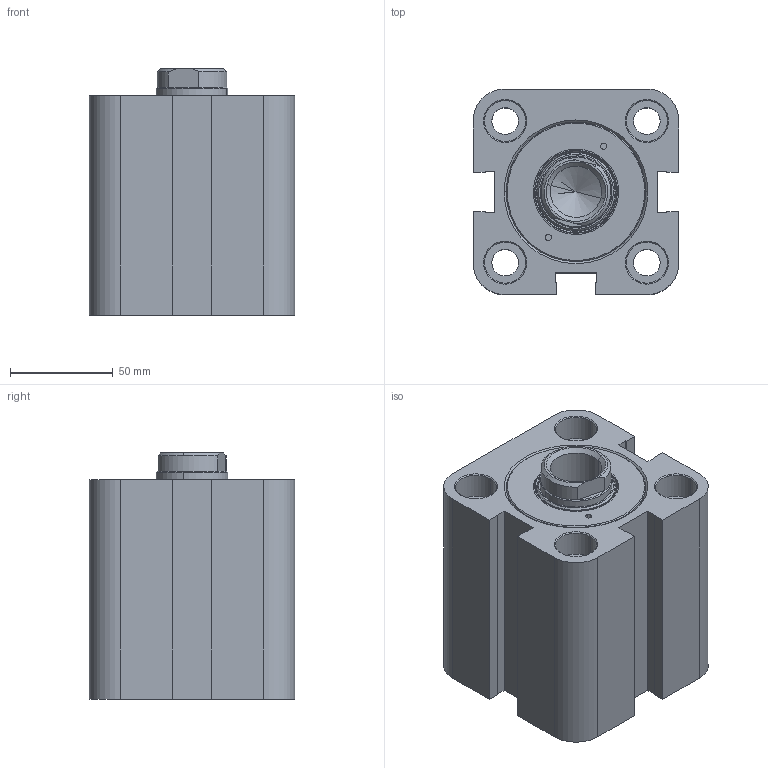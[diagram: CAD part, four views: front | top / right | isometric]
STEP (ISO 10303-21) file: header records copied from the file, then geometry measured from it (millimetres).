
FILE_DESCRIPTION (( 'STEP AP214' ), '1' );
FILE_NAME ('KSWC_03_M_63_35_30_WEB.STEP', '2021-08-20T10:58:09', ( '' ), ( '' ), 'SwSTEP 2.0', 'SolidWorks 2021', '' );
FILE_SCHEMA (( 'AUTOMOTIVE_DESIGN' ));
Length unit declared in the file: millimetre
Products named in the file (8): KSWC_03_63_35_烰_KAPAK; KO-58X3; 35_K_MIL_WEB; KSWC_03_M_63_35_30_WEB; KSWC_03_63_35_ON_KAPAK; K22-35X45X8; K05-35X41X4; KSWC_03_M_63_GOVDE_WEB
Assembly tree (7 placements, depth 3):
  KSWC_03_M_63_35_30_WEB
    KSWC_03_M_63_GOVDE_WEB
    35_K_MIL_WEB
    KSWC_03_63_35_ON_KAPAK
      KSWC_03_63_35_烰_KAPAK
      K05-35X41X4
      K22-35X45X8
      KO-58X3
Bounding box: 100 x 100 x 120 mm (x, y, z)
Volume: 891696.5 mm3; surface area: 127276.3 mm2
Topology: 6 solids, 6 shells, 433 faces, 1046 edges, 666 vertices
Faces by surface type: plane 157, bspline 118, cylinder 89, cone 69
Entity records: 20058 total; most frequent: CARTESIAN_POINT 8442, ORIENTED_EDGE 2088, DIRECTION 1716, EDGE_CURVE 1044, VERTEX_POINT 666, AXIS2_PLACEMENT_3D 584, LINE 548, VECTOR 548
